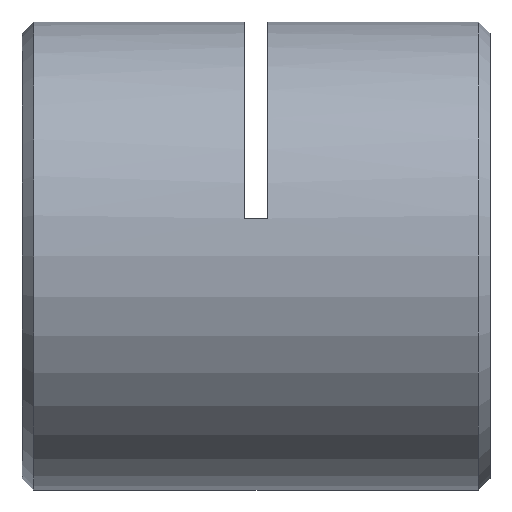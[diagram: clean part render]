
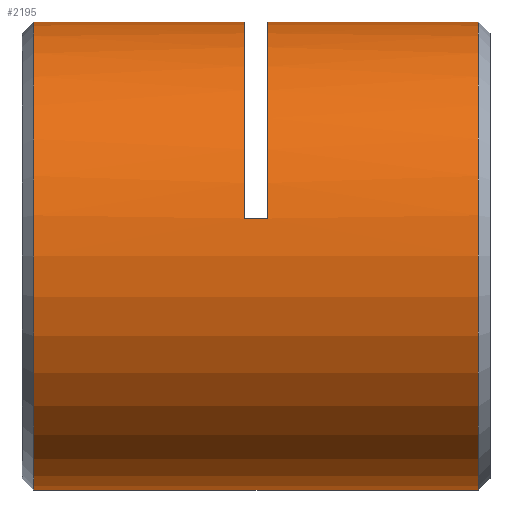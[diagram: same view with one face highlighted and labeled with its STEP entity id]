
A CAD part, left-side view. The second image highlights one B-rep face of the part: STEP entity #2195.
In plain terms, the highlighted cylindrical face has radius 8 mm (diameter 16 mm), a partial arc.
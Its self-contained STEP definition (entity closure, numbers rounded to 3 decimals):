
#15 = VECTOR ( 'NONE', #2098, 1000. ) ;
#57 = DIRECTION ( 'NONE',  ( 0., 1., 0. ) ) ;
#117 = ORIENTED_EDGE ( 'NONE', *, *, #2555, .T. ) ;
#153 = EDGE_CURVE ( 'NONE', #3487, #3232, #3059, .T. ) ;
#375 = VERTEX_POINT ( 'NONE', #3165 ) ;
#470 = CIRCLE ( 'NONE', #721, 8. ) ;
#501 = CARTESIAN_POINT ( 'NONE',  ( 0., 15.85, -8. ) ) ;
#517 = CIRCLE ( 'NONE', #2775, 8. ) ;
#721 = AXIS2_PLACEMENT_3D ( 'NONE', #2231, #738, #3500 ) ;
#738 = DIRECTION ( 'NONE',  ( 0., 1., 0. ) ) ;
#763 = CARTESIAN_POINT ( 'NONE',  ( -7.897, 8.25, 1.28 ) ) ;
#765 = DIRECTION ( 'NONE',  ( 0., -1., 0. ) ) ;
#888 = EDGE_LOOP ( 'NONE', ( #3538, #117, #2103, #3939, #2698, #3369, #1360, #3476 ) ) ;
#935 = CARTESIAN_POINT ( 'NONE',  ( 0., 0.25, 0. ) ) ;
#950 = CIRCLE ( 'NONE', #3233, 8. ) ;
#979 = EDGE_CURVE ( 'NONE', #375, #2729, #1995, .T. ) ;
#1151 = VERTEX_POINT ( 'NONE', #3421 ) ;
#1271 = VERTEX_POINT ( 'NONE', #2582 ) ;
#1308 = CARTESIAN_POINT ( 'NONE',  ( -7.897, 8.65, 1.28 ) ) ;
#1360 = ORIENTED_EDGE ( 'NONE', *, *, #3981, .T. ) ;
#1454 = CARTESIAN_POINT ( 'NONE',  ( 0., 7.85, 0. ) ) ;
#1520 = EDGE_CURVE ( 'NONE', #1151, #2670, #2722, .T. ) ;
#1712 = CARTESIAN_POINT ( 'NONE',  ( 0., 0.25, -8. ) ) ;
#1740 = DIRECTION ( 'NONE',  ( 0., 1., 0. ) ) ;
#1767 = DIRECTION ( 'NONE',  ( 0., 1., 0. ) ) ;
#1794 = CARTESIAN_POINT ( 'NONE',  ( 0., 8.65, 8. ) ) ;
#1855 = VECTOR ( 'NONE', #1740, 1000. ) ;
#1983 = FACE_OUTER_BOUND ( 'NONE', #888, .T. ) ;
#1995 = LINE ( 'NONE', #763, #15 ) ;
#2098 = DIRECTION ( 'NONE',  ( 0., 1., 0. ) ) ;
#2103 = ORIENTED_EDGE ( 'NONE', *, *, #1520, .T. ) ;
#2104 = LINE ( 'NONE', #3572, #2260 ) ;
#2195 = ADVANCED_FACE ( 'NONE', ( #1983 ), #3688, .T. ) ;
#2231 = CARTESIAN_POINT ( 'NONE',  ( 0., 8.65, 0. ) ) ;
#2260 = VECTOR ( 'NONE', #1767, 1000. ) ;
#2315 = CARTESIAN_POINT ( 'NONE',  ( 0., 15.85, 0. ) ) ;
#2368 = AXIS2_PLACEMENT_3D ( 'NONE', #935, #2784, #3384 ) ;
#2506 = CARTESIAN_POINT ( 'NONE',  ( 0., 0.65, 0. ) ) ;
#2555 = EDGE_CURVE ( 'NONE', #3487, #1151, #517, .T. ) ;
#2582 = CARTESIAN_POINT ( 'NONE',  ( 0., 15.85, 8. ) ) ;
#2609 = CIRCLE ( 'NONE', #3105, 8. ) ;
#2614 = DIRECTION ( 'NONE',  ( 0., 0., -1. ) ) ;
#2670 = VERTEX_POINT ( 'NONE', #3188 ) ;
#2698 = ORIENTED_EDGE ( 'NONE', *, *, #979, .T. ) ;
#2722 = LINE ( 'NONE', #2768, #3143 ) ;
#2727 = DIRECTION ( 'NONE',  ( 0., 1., 0. ) ) ;
#2729 = VERTEX_POINT ( 'NONE', #1308 ) ;
#2768 = CARTESIAN_POINT ( 'NONE',  ( 0., 0.25, 8. ) ) ;
#2775 = AXIS2_PLACEMENT_3D ( 'NONE', #2506, #57, #3685 ) ;
#2784 = DIRECTION ( 'NONE',  ( 0., 1., 0. ) ) ;
#2819 = EDGE_CURVE ( 'NONE', #1271, #3232, #2609, .T. ) ;
#2897 = EDGE_CURVE ( 'NONE', #375, #2670, #950, .T. ) ;
#3059 = LINE ( 'NONE', #1712, #1855 ) ;
#3105 = AXIS2_PLACEMENT_3D ( 'NONE', #2315, #765, #2614 ) ;
#3140 = EDGE_CURVE ( 'NONE', #2729, #3975, #470, .T. ) ;
#3143 = VECTOR ( 'NONE', #2727, 1000. ) ;
#3165 = CARTESIAN_POINT ( 'NONE',  ( -7.897, 7.85, 1.28 ) ) ;
#3188 = CARTESIAN_POINT ( 'NONE',  ( 0., 7.85, 8. ) ) ;
#3232 = VERTEX_POINT ( 'NONE', #501 ) ;
#3233 = AXIS2_PLACEMENT_3D ( 'NONE', #1454, #3571, #3904 ) ;
#3369 = ORIENTED_EDGE ( 'NONE', *, *, #3140, .T. ) ;
#3384 = DIRECTION ( 'NONE',  ( 0., 0., 1. ) ) ;
#3421 = CARTESIAN_POINT ( 'NONE',  ( 0., 0.65, 8. ) ) ;
#3476 = ORIENTED_EDGE ( 'NONE', *, *, #2819, .T. ) ;
#3487 = VERTEX_POINT ( 'NONE', #3800 ) ;
#3500 = DIRECTION ( 'NONE',  ( 0., 0., 1. ) ) ;
#3538 = ORIENTED_EDGE ( 'NONE', *, *, #153, .F. ) ;
#3571 = DIRECTION ( 'NONE',  ( 0., 1., 0. ) ) ;
#3572 = CARTESIAN_POINT ( 'NONE',  ( 0., 0.25, 8. ) ) ;
#3685 = DIRECTION ( 'NONE',  ( 0., 0., 1. ) ) ;
#3688 = CYLINDRICAL_SURFACE ( 'NONE', #2368, 8. ) ;
#3800 = CARTESIAN_POINT ( 'NONE',  ( 0., 0.65, -8. ) ) ;
#3904 = DIRECTION ( 'NONE',  ( 0., 0., 1. ) ) ;
#3939 = ORIENTED_EDGE ( 'NONE', *, *, #2897, .F. ) ;
#3975 = VERTEX_POINT ( 'NONE', #1794 ) ;
#3981 = EDGE_CURVE ( 'NONE', #3975, #1271, #2104, .T. ) ;
